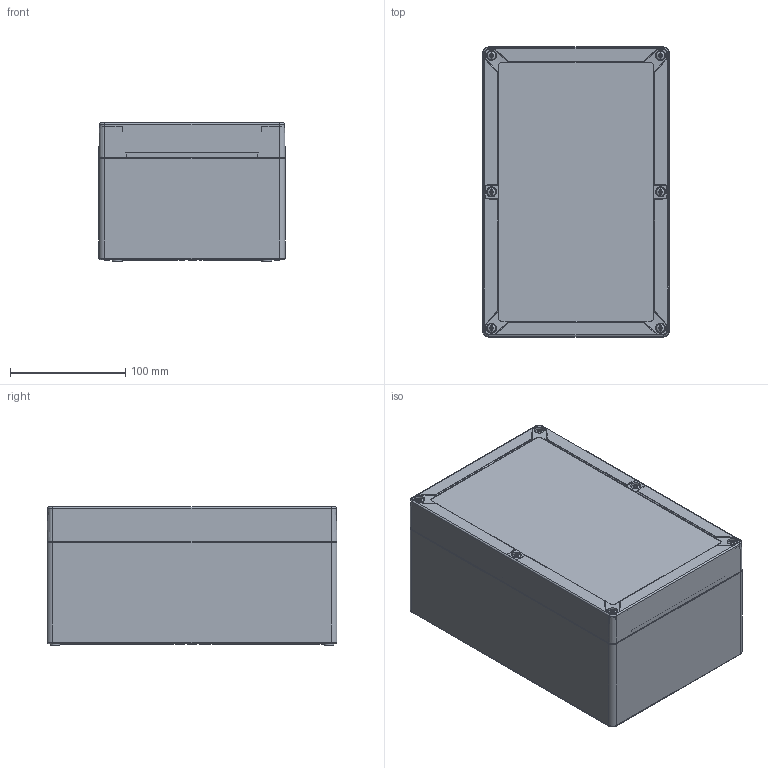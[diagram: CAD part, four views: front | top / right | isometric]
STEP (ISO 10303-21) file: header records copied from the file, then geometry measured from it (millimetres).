
FILE_DESCRIPTION (( 'STEP AP214' ), '1' );
FILE_NAME ('SG-15-02.STEP', '2026-02-27T17:33:24', ( '' ), ( '' ), 'SwSTEP 2.0', 'SolidWorks 2025', '' );
FILE_SCHEMA (( 'AUTOMOTIVE_DESIGN' ));
Length unit declared in the file: inch
Products named in the file (7): SCREWS-022_SCREWS-022; SG-97S; SCREWS-019_SCREWS-19; SG-15B_SG-15B-02; SG-KIT-03; SG-15C_SG-15C-02; SG-15-02
Assembly tree (15 placements, depth 3):
  SG-15-02
    SG-15B_SG-15B-02
    SG-15C_SG-15C-02
    SG-KIT-03
      SCREWS-019_SCREWS-19  x6
      SCREWS-022_SCREWS-022  x4
      SG-97S  x2
Bounding box: 162 x 252 x 120 mm (x, y, z)
Volume: 613991 mm3; surface area: 441980.7 mm2
Topology: 11 solids, 15 shells, 3643 faces, 8986 edges, 5390 vertices
Faces by surface type: plane 1121, cylinder 1113, bspline 686, torus 343, cone 264, sphere 116
Entity records: 87143 total; most frequent: CARTESIAN_POINT 33878, ORIENTED_EDGE 11466, DIRECTION 10707, EDGE_CURVE 5733, AXIS2_PLACEMENT_3D 3940, VERTEX_POINT 3590, VECTOR 2827, LINE 2827
